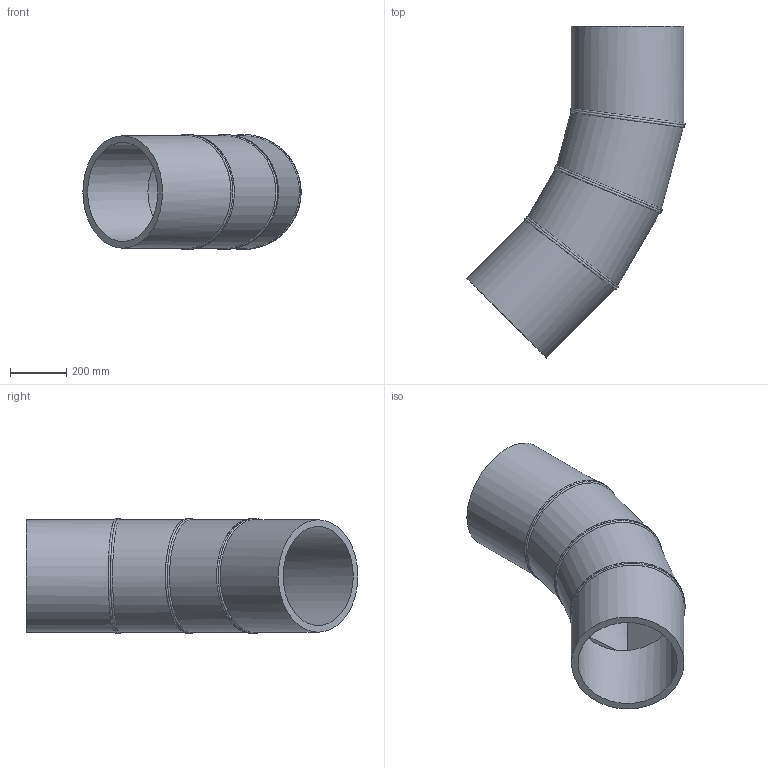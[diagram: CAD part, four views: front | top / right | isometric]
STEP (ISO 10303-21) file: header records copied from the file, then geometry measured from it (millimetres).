
FILE_DESCRIPTION(/* description */ ('Unknown'),/* implementation_level */ '2;1');
FILE_NAME(/* name */ 'Curva 45° a settore DE400 SDR17',/* time_stamp */ '2022-07-26T09:43:25+02:00',/* author */ ('Unknown'),/* organization */ ('Unknown'),/* preprocessor_version */ 'ST-DEVELOPER v18.102',/* originating_system */ 'Solid Edge',/* authorisation */ 'Unknown');
FILE_SCHEMA (('AUTOMOTIVE_DESIGN {1 0 10303 214 3 1 1}'));
Length unit declared in the file: millimetre
Products named in the file (3): Curva 45° a settore DE400 SDR17; Tubo x Gomito 45° DE400 SDR17 - 1; Tubo x Gomito 45° DE400 SDR17 - 2
Assembly tree (4 placements, depth 2):
  Curva 45° a settore DE400 SDR17
    Tubo x Gomito 45° DE400 SDR17 - 1  x2
    Tubo x Gomito 45° DE400 SDR17 - 2  x2
Bounding box: 775.48 x 1179.68 x 407.99 mm (x, y, z)
Volume: 33194506.4 mm3; surface area: 3046523.1 mm2
Topology: 4 solids, 4 shells, 34 faces, 74 edges, 48 vertices
Faces by surface type: cylinder 20, plane 8, bspline 6
Full cylindrical faces by diameter (mm): 352.6 x4, 400 x4
Entity records: 2384 total; most frequent: CARTESIAN_POINT 1982, DIRECTION 72, ORIENTED_EDGE 52, AXIS2_PLACEMENT_3D 36, EDGE_LOOP 28, FACE_BOUND 28, EDGE_CURVE 26, VERTEX_POINT 20
